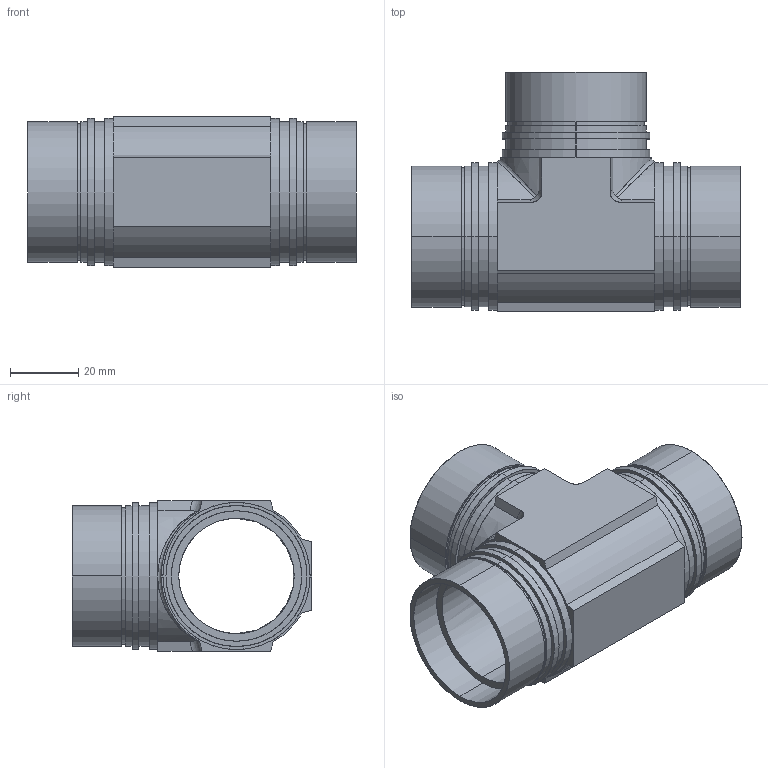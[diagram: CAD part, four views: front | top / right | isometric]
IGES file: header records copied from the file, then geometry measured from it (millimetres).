
Start section: SolidWorks IGES file using analytic representation for surfaces
Global section: file name: C:\Users\tsuchida.FW\Desktop\70-381UT-P.IGS; native system: SolidWorks 2012; preprocessor: SolidWorks 2012; author: tsuchida; date: 121029.134541; units: millimetre
Bounding box: 96 x 70 x 44 mm (x, y, z)
Surface area: 42303.5 mm2 (no closed solid volume)
Topology: 0 solids, 0 shells, 111 faces, 3950 edges, 3950 vertices
Faces by surface type: revolution 67, bspline 44
